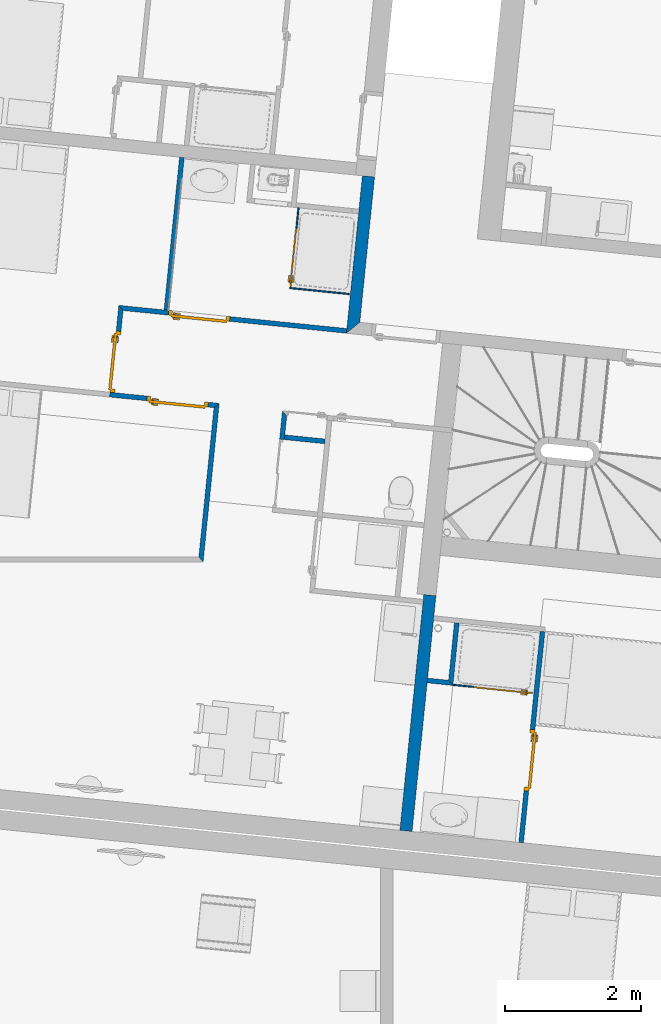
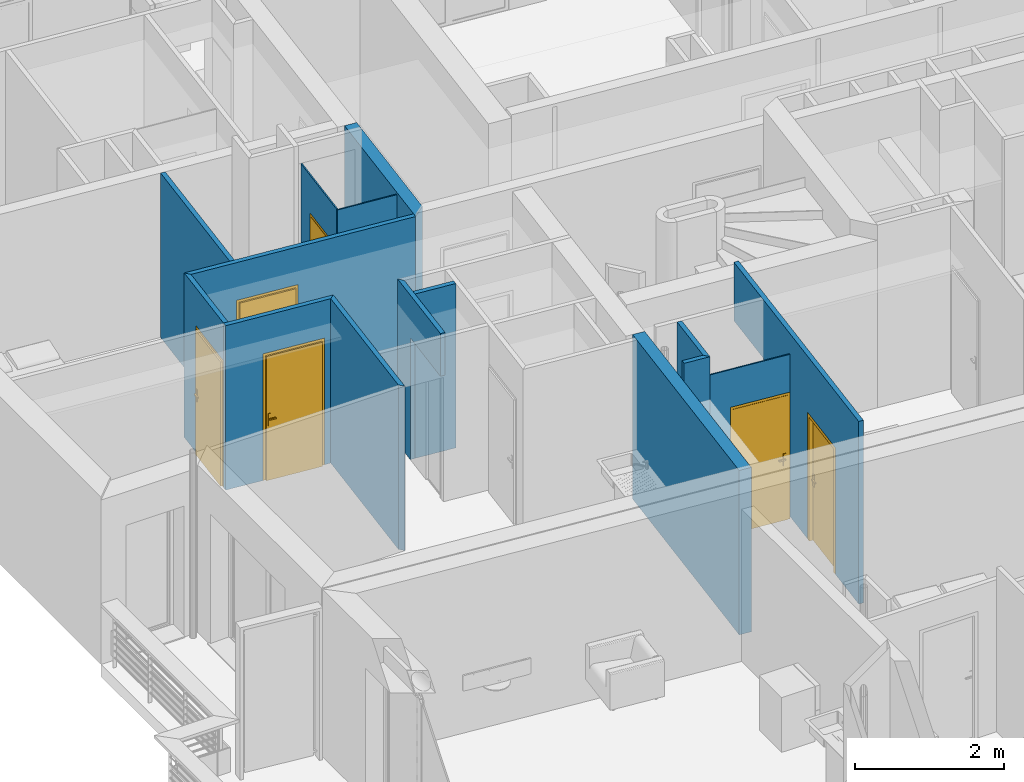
# One storey, part 49 of 164: 15 walls, 6 doors, 8 openings.
"""IFC2X3 building model written with IfcOpenShell, lengths in millimetres."""

from ifc_helpers import new_model, entity, si_unit, converted_unit, derived_unit, money_unit, direction, frame, origin_with_axes, origin_2d_with_axis, place, context, subcontext, project, spatial, polyline, rectangle, outline, extrude, faceted_brep, source, transform, mapped, material, layer, layer_set, layer_usage, type_object, element, fill, save


model = new_model("IFC2X3")

# Units and contexts
model_context = context("Model", 3, precision=0.01, world=origin_with_axes(), true_north=direction((0.0, 1.0)))
body_context = subcontext(model_context, "Body", "Model", "MODEL_VIEW")
ifc_project = project(units=[si_unit("LENGTHUNIT", "METRE", prefix="MILLI"), si_unit("AREAUNIT", "SQUARE_METRE"), si_unit("VOLUMEUNIT", "CUBIC_METRE"), converted_unit("PLANEANGLEUNIT", "DEGREE", entity("IfcPlaneAngleMeasure", 0.0174532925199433), si_unit("PLANEANGLEUNIT", "RADIAN"), dimensions=[0, 0, 0, 0, 0, 0, 0]), money_unit("USD"), converted_unit("TIMEUNIT", "Year", entity("IfcTimeMeasure", 31557600.0), si_unit("TIMEUNIT", "SECOND"), dimensions=[0, 0, 1, 0, 0, 0, 0]), si_unit("MASSUNIT", "GRAM", prefix="KILO"), si_unit("THERMODYNAMICTEMPERATUREUNIT", "DEGREE_CELSIUS"), si_unit("LUMINOUSINTENSITYUNIT", "LUMEN"), si_unit("ENERGYUNIT", "JOULE", prefix="MEGA"), derived_unit("THERMALCONDUCTANCEUNIT", [(si_unit("POWERUNIT", "WATT"), 1), (si_unit("LENGTHUNIT", "METRE"), -1), (si_unit("THERMODYNAMICTEMPERATUREUNIT", "KELVIN"), -1)]), derived_unit("SPECIFICHEATCAPACITYUNIT", [(si_unit("ENERGYUNIT", "JOULE"), 1), (si_unit("MASSUNIT", "GRAM", prefix="KILO"), -1), (si_unit("THERMODYNAMICTEMPERATUREUNIT", "KELVIN"), -1)]), derived_unit("MASSDENSITYUNIT", [(si_unit("MASSUNIT", "GRAM", prefix="KILO"), 1), (si_unit("VOLUMEUNIT", "CUBIC_METRE"), -1)])], contexts=[model_context])

# Site, building, storey
site_placement = place(None, origin_with_axes())
site = spatial("IfcSite", under=ifc_project, at=site_placement, Name="Site", CompositionType="ELEMENT")
building_placement = place(site_placement, origin_with_axes())
building = spatial("IfcBuilding", under=site, at=building_placement, Name="Bâtiment", CompositionType="ELEMENT")
storey_placement = place(building_placement, frame((0.0, 0.0, 5750.0), z_axis=(0.0, 0.0, 1.0), x_axis=(1.0, 0.0, 0.0)))
storey = spatial("IfcBuildingStorey", under=building, at=storey_placement, Name="Etage1", CompositionType="ELEMENT", Elevation=5750.0)

# Walls
ifc_material_1 = material(Name="Parpaing 314940890")
ifc_layer_1 = layer(ifc_material_1, 180.0, ventilated="UNKNOWN")
ifc_layer_set_1 = layer_set([ifc_layer_1], Name="Beton  18 0018356637")
ifc_layer_usage_1 = layer_usage(ifc_layer_set_1, "AXIS2", "NEGATIVE", 0.0)
wall_type_1 = type_object("IfcWallType", Name="Beton  18 0018356637 180", PredefinedType="NOTDEFINED")
wall_1_placement = place(storey_placement, frame((2224947.557102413, -617737.4082418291, 0.0), z_axis=(0.0, 0.0, 1.0), x_axis=(-0.1008361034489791, -0.9949030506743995, 0.0)))
element("IfcWallStandardCase", 1, at=wall_1_placement, inside=storey, type_object=wall_type_1, material=ifc_layer_usage_1, Name="Mur-143", context=body_context, shape_type="SweptSolid", body=[
    extrude(outline(polyline([(-0.04756374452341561, -180.0000000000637), (3497.281373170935, -180.0000000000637), (3497.329701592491, 1.13686837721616e-10), (0.0, 0.0), (-0.04756374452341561, -180.0000000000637)])), origin_with_axes(), (0.0, 0.0, 1.0), 2700.0),
])
ifc_material_2 = material(Name="Hachure solide 268963992")
ifc_layer_2 = layer(ifc_material_2, 70.0, ventilated="UNKNOWN")
ifc_layer_set_2 = layer_set([ifc_layer_2], Name="Cloison 70 0826278243")
ifc_layer_usage_2 = layer_usage(ifc_layer_set_2, "AXIS2", "POSITIVE", -70.0)
wall_type_2 = type_object("IfcWallType", Name="Cloison 70 0826278243 70", PredefinedType="NOTDEFINED")
wall_2_placement = place(storey_placement, frame((2221233.223659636, -611271.3291916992, 0.0), z_axis=(0.0, 0.0, 1.0), x_axis=(-0.1008288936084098, -0.9949037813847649, 0.0)))
element("IfcWallStandardCase", 2, at=wall_2_placement, inside=storey, type_object=wall_type_2, material=ifc_layer_usage_2, Name="Mur-149", context=body_context, shape_type="SweptSolid", body=[
    extrude(outline(polyline([(-0.01930162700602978, -70.00000000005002), (2266.451296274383, -69.99999999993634), (2266.475487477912, 0.0), (0.0, 0.0), (-0.01930162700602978, -70.00000000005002)])), origin_with_axes(), (0.0, 0.0, 1.0), 2700.0),
])

# Wall, opening, door
ifc_layer_usage_3 = layer_usage(ifc_layer_set_2, "AXIS2", "POSITIVE", -70.0)
wall_3_placement = place(storey_placement, frame((2220330.272971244, -613528.0299812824, 0.0), z_axis=(0.0, 0.0, 1.0), x_axis=(-0.1011731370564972, -0.9948688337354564, 0.0)))
wall_3 = element("IfcWallStandardCase", 3, at=wall_3_placement, inside=storey, type_object=wall_type_2, material=ifc_layer_usage_3, Name="Mur-149", context=body_context, shape_type="SweptSolid", body=[
    extrude(outline(polyline([(-69.99997030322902, -69.99999999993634), (1219.99999999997, -69.99999999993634), (1219.99999999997, 0.0), (0.0, 0.0), (-69.99997030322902, -69.99999999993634)])), origin_with_axes(), (0.0, 0.0, 1.0), 2700.0),
])
opening_1_placement = place(wall_3_placement, frame((764.9999999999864, 0.0, 0.0), z_axis=(0.0, 0.0, 1.0), x_axis=(1.0, 0.0, 0.0)))
opening_1 = element("IfcOpeningElement", 4, at=opening_1_placement, cuts=wall_3, Name="Por-280", context=body_context, shape_type="SweptSolid", body=[
    extrude(rectangle(XDim=910.0, YDim=2080.0, at=origin_2d_with_axis()), frame((0.0, 69.99999999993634, 1040.0), z_axis=(0.0, 1.0, 0.0), x_axis=(1.0, 0.0, 0.0)), (0.0, 0.0, -1.0), 140.0),
])
door_style = type_object("IfcDoorStyle", Name="Porte_1v", ConstructionType="NOTDEFINED", OperationType="NOTDEFINED", ParameterTakesPrecedence=False, Sizeable=False)
shared_shape_1 = source(origin_with_axes(), body_context, "Body", "Brep", [
    faceted_brep([(-454.9999999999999, 0.0, 0.0), (-454.9999999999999, 0.0, 2080.0), (454.9999999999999, 0.0, 2080.0), (454.9999999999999, 0.0, 0.0), (414.9999999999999, 0.0, 0.0), (414.9999999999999, 0.0, 2040.0), (-414.9999999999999, 0.0, 2040.0), (-414.9999999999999, 0.0, 0.0), (-454.9999999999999, -69.99999999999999, 0.0), (-454.9999999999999, -69.99999999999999, 2080.0), (454.9999999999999, -69.99999999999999, 2080.0), (454.9999999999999, -69.99999999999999, 0.0), (399.9999999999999, -69.99999999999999, 0.0), (399.9999999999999, -15.0, 0.0), (414.9999999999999, -15.0, 0.0), (414.9999999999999, -15.0, 2040.0), (-414.9999999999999, -14.99999999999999, 2040.0), (-414.9999999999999, -14.99999999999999, 0.0), (-399.9999999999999, -14.99999999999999, 0.0), (-399.9999999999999, -69.99999999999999, 0.0), (-399.9999999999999, -69.99999999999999, 2025.0), (399.9999999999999, -69.99999999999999, 2025.0), (399.9999999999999, -15.0, 2025.0), (-399.9999999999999, -14.99999999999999, 2025.0)], [[[0, 1, 2, 3, 4, 5, 6, 7]], [[8, 9, 1, 0]], [[9, 10, 2, 1]], [[10, 11, 3, 2]], [[3, 11, 12, 13, 14, 4]], [[5, 4, 14, 15]], [[6, 5, 15, 16]], [[7, 6, 16, 17]], [[0, 7, 17, 18, 19, 8]], [[19, 20, 21, 12, 11, 10, 9, 8]], [[22, 13, 12, 21]], [[17, 16, 15, 14, 13, 22, 23, 18]], [[18, 23, 20, 19]], [[23, 22, 21, 20]]]),
    faceted_brep([(350.0, -15.0, 900.0), (350.0, -15.0, 1100.0), (389.9999999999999, -15.0, 1100.0), (389.9999999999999, -15.0, 900.0), (350.0, -25.0, 900.0), (350.0, -25.0, 1100.0), (389.9999999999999, -25.0, 1100.0), (389.9999999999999, -25.0, 900.0)], [[[0, 1, 2, 3]], [[0, 4, 5, 1]], [[1, 5, 6, 2]], [[2, 6, 7, 3]], [[3, 7, 4, 0]], [[7, 6, 5, 4]]]),
    faceted_brep([(279.9999999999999, -25.0, 1000.0), (279.9999999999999, -25.0, 1020.0), (379.9999999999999, -25.0, 1020.0), (379.9999999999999, -25.0, 1000.0), (279.9999999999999, -45.0, 1000.0), (279.9999999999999, -45.0, 1020.0), (379.9999999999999, -45.0, 1020.0), (379.9999999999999, -45.0, 1000.0)], [[[0, 1, 2, 3]], [[0, 4, 5, 1]], [[1, 5, 6, 2]], [[2, 6, 7, 3]], [[3, 7, 4, 0]], [[7, 6, 5, 4]]]),
    faceted_brep([(350.0, 34.99999999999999, 900.0), (350.0, 34.99999999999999, 1100.0), (389.9999999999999, 34.99999999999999, 1100.0), (389.9999999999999, 34.99999999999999, 900.0), (350.0, 24.99999999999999, 900.0), (350.0, 24.99999999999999, 1100.0), (389.9999999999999, 24.99999999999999, 1100.0), (389.9999999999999, 24.99999999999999, 900.0)], [[[0, 1, 2, 3]], [[0, 4, 5, 1]], [[1, 5, 6, 2]], [[2, 6, 7, 3]], [[3, 7, 4, 0]], [[7, 6, 5, 4]]]),
    faceted_brep([(279.9999999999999, 54.99999999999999, 1000.0), (279.9999999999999, 54.99999999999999, 1020.0), (379.9999999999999, 54.99999999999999, 1020.0), (379.9999999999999, 54.99999999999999, 1000.0), (279.9999999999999, 34.99999999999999, 1000.0), (279.9999999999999, 34.99999999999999, 1020.0), (379.9999999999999, 34.99999999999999, 1020.0), (379.9999999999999, 34.99999999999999, 1000.0)], [[[0, 1, 2, 3]], [[0, 4, 5, 1]], [[1, 5, 6, 2]], [[2, 6, 7, 3]], [[3, 7, 4, 0]], [[7, 6, 5, 4]]]),
    faceted_brep([(414.9999999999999, 24.99999999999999, 0.0), (414.9999999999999, -15.0, 0.0), (-414.9999999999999, -14.99999999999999, 0.0), (-414.9999999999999, 25.0, 0.0), (414.9999999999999, 24.99999999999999, 2040.0), (414.9999999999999, -15.0, 2040.0), (-414.9999999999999, -14.99999999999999, 2040.0), (-414.9999999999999, 25.0, 2040.0)], [[[0, 1, 2, 3]], [[4, 5, 1, 0]], [[1, 5, 6, 2]], [[3, 2, 6, 7]], [[0, 3, 7, 4]], [[7, 6, 5, 4]]]),
])
door_1_placement = place(opening_1_placement, frame((414.9999999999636, 1.13686837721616e-10, 0.0), z_axis=(0.0, 0.0, 1.0), x_axis=(-1.0, 0.0, 0.0)))
door_1 = element("IfcDoor", 5, at=door_1_placement, inside=storey, type_object=door_style, Name="Por-280", OverallHeight=2040.0, OverallWidth=830.0, context=body_context, shape_type="MappedRepresentation", body=[
    mapped(shared_shape_1, transform((414.9999999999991, 69.99999999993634, 0.0))),
])
fill(opening_1, door_1)

# Wall
ifc_layer_usage_4 = layer_usage(ifc_layer_set_2, "AXIS2", "POSITIVE", -70.0)
wall_4_placement = place(storey_placement, frame((2225290.315286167, -618141.6409593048, 0.0), z_axis=(0.0, 0.0, 1.0), x_axis=(-0.1005444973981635, -0.9949325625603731, 0.0)))
element("IfcWallStandardCase", 6, at=wall_4_placement, inside=storey, type_object=wall_type_2, material=ifc_layer_usage_4, Name="Mur-149", context=body_context, shape_type="SweptSolid", body=[
    extrude(outline(polyline([(-0.02866273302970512, -70.00000000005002), (854.3769628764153, -69.99999999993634), (924.3814876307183, 0.0), (-0.007720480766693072, 0.0), (-0.02866273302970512, -70.00000000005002)])), origin_with_axes(), (0.0, 0.0, 1.0), 3000.0),
])

# Wall, opening, door
ifc_layer_usage_5 = layer_usage(ifc_layer_set_2, "AXIS2", "POSITIVE", -70.0)
wall_5_placement = place(storey_placement, frame((2223626.274768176, -613863.215308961, 0.0), z_axis=(0.0, 0.0, 1.0), x_axis=(-0.9948688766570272, 0.1011727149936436, 0.0)))
wall_5 = element("IfcWallStandardCase", 7, at=wall_5_placement, inside=storey, type_object=wall_type_2, material=ifc_layer_usage_5, Name="Mur-149", context=body_context, shape_type="SweptSolid", body=[
    extrude(outline(polyline([(-1.13686837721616e-10, -70.0000000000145), (3383.001185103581, -70.00000000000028), (3313.001214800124, 0.0), (0.0, 0.0), (-1.13686837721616e-10, -70.0000000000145)])), origin_with_axes(), (0.0, 0.0, 1.0), 2700.0),
])
opening_2_placement = place(wall_5_placement, frame((2188.000767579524, 0.0, 0.0), z_axis=(0.0, 0.0, 1.0), x_axis=(1.0, 0.0, 0.0)))
opening_2 = element("IfcOpeningElement", 8, at=opening_2_placement, cuts=wall_5, Name="Por-280", context=body_context, shape_type="SweptSolid", body=[
    extrude(rectangle(XDim=910.0, YDim=2080.0, at=origin_2d_with_axis()), frame((0.0, -70.00000000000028, 1040.0), z_axis=(0.0, -1.0, 0.0), x_axis=(-1.0, 0.0, 0.0)), (0.0, 0.0, -1.0), 140.0),
])
door_2_placement = place(opening_2_placement, frame((-414.9999999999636, 0.0, 0.0), z_axis=(0.0, 0.0, 1.0), x_axis=(1.0, 0.0, 0.0)))
door_2 = element("IfcDoor", 9, at=door_2_placement, inside=storey, type_object=door_style, Name="Por-280", OverallHeight=2040.0, OverallWidth=830.0, context=body_context, shape_type="MappedRepresentation", body=[
    mapped(shared_shape_1, transform((415.0000000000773, 0.0, 0.0))),
])
fill(opening_2, door_2)

ifc_layer_usage_6 = layer_usage(ifc_layer_set_2, "AXIS2", "NEGATIVE", 70.0)
wall_6_placement = place(storey_placement, frame((2221749.216305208, -614898.6216634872, 0.0), z_axis=(0.0, 0.0, 1.0), x_axis=(-0.99486883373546, 0.1011731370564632, 0.0)))
wall_6 = element("IfcWallStandardCase", 10, at=wall_6_placement, inside=storey, type_object=wall_type_2, material=ifc_layer_usage_6, Name="Mur-149", context=body_context, shape_type="SweptSolid", body=[
    extrude(outline(polyline([(-2.273736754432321e-10, 0.0), (1620.329559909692, 0.0), (1620.329559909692, 69.99999999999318), (69.99999999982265, 70.00000000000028), (-2.273736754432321e-10, 0.0)])), origin_with_axes(), (0.0, 0.0, 1.0), 2700.0),
])
opening_3_placement = place(wall_6_placement, frame((615.2185061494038, 0.0, 0.0), z_axis=(0.0, 0.0, 1.0), x_axis=(1.0, 0.0, 0.0)))
opening_3 = element("IfcOpeningElement", 11, at=opening_3_placement, cuts=wall_6, Name="Por-280", context=body_context, shape_type="SweptSolid", body=[
    extrude(rectangle(XDim=910.0, YDim=2080.0, at=origin_2d_with_axis()), frame((0.0, -70.00000000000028, 1040.0), z_axis=(0.0, -1.0, 0.0), x_axis=(-1.0, 0.0, 0.0)), (0.0, 0.0, -1.0), 140.0),
])
door_3_placement = place(opening_3_placement, frame((-415.0000000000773, 0.0, 0.0), z_axis=(0.0, 0.0, 1.0), x_axis=(1.0, 0.0, 0.0)))
door_3 = element("IfcDoor", 12, at=door_3_placement, inside=storey, type_object=door_style, Name="Por-280", OverallHeight=2040.0, OverallWidth=830.0, context=body_context, shape_type="MappedRepresentation", body=[
    mapped(shared_shape_1, transform((415.0000000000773, 70.00000000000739, 0.0))),
])
fill(opening_3, door_3)

# Wall, opening
ifc_layer_usage_7 = layer_usage(ifc_layer_set_2, "AXIS2", "POSITIVE", -70.0)
wall_7_placement = place(storey_placement, frame((2222752.519479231, -615015.4801485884, 0.0), z_axis=(0.0, 0.0, 1.0), x_axis=(-0.1011032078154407, -0.9948759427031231, 0.0)))
wall_7 = element("IfcWallStandardCase", 13, at=wall_7_placement, inside=storey, type_object=wall_type_2, material=ifc_layer_usage_7, Name="Mur-149", context=body_context, shape_type="SweptSolid", body=[
    extrude(outline(polyline([(-1.003314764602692e-06, -69.99999999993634), (1408.251999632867, -69.99999999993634), (1408.251999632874, 1.13686837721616e-10), (69.99999999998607, 1.13686837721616e-10), (-1.003314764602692e-06, -69.99999999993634)])), origin_with_axes(), (0.0, 0.0, 1.0), 2700.0),
])
opening_4_placement = place(wall_7_placement, frame((926.5441935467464, -1.13686837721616e-10, 0.0), z_axis=(0.0, 0.0, 1.0), x_axis=(1.0, 0.0, 0.0)))
element("IfcOpeningElement", 14, at=opening_4_placement, cuts=wall_7, Name="Por-321", context=body_context, shape_type="SweptSolid", body=[
    extrude(rectangle(XDim=1013.088379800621, YDim=2000.0, at=origin_2d_with_axis()), frame((0.0, -69.99999999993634, 1000.0), z_axis=(0.0, 1.0, 0.0), x_axis=(1.0, 0.0, 0.0)), (0.0, 0.0, -1.0), 70.0),
    extrude(rectangle(XDim=1013.088379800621, YDim=2000.0, at=origin_2d_with_axis()), frame((0.0, -69.99999999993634, 1000.0), z_axis=(0.0, -1.0, 0.0), x_axis=(1.0, 0.0, 0.0)), (0.0, 0.0, -1.0), 70.0),
])

# Walls
ifc_layer_usage_8 = layer_usage(ifc_layer_set_2, "AXIS2", "POSITIVE", -70.0)
wall_8_placement = place(storey_placement, frame((2221749.216305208, -614898.6216634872, 0.0), z_axis=(0.0, 0.0, 1.0), x_axis=(-0.1011731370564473, -0.9948688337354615, 0.0)))
element("IfcWallStandardCase", 15, at=wall_8_placement, inside=storey, type_object=wall_type_2, material=ifc_layer_usage_8, Name="Mur-149", context=body_context, shape_type="SweptSolid", body=[
    extrude(outline(polyline([(70.0000000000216, -69.99999999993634), (2287.704858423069, -69.99999999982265), (2350.947246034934, 0.0), (0.0, 0.0), (70.0000000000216, -69.99999999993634)])), origin_with_axes(), (0.0, 0.0, 1.0), 2700.0),
])
ifc_layer_usage_9 = layer_usage(ifc_layer_set_2, "AXIS2", "POSITIVE", -70.0)
wall_9_placement = place(storey_placement, frame((2225197.373814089, -619061.3382015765, 0.0), z_axis=(0.0, 0.0, 1.0), x_axis=(-0.9949260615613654, 0.100608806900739, 0.0)))
element("IfcWallStandardCase", 16, at=wall_9_placement, inside=storey, type_object=wall_type_2, material=ifc_layer_usage_9, Name="Mur-149", context=body_context, shape_type="SweptSolid", body=[
    extrude(outline(polyline([(70.00452475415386, -70.00000000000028), (382.1642703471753, -69.99999999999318), (382.1642703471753, 0.0), (0.0, 0.0), (70.00452475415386, -70.00000000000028)])), origin_with_axes(), (0.0, 0.0, 1.0), 3000.0),
])

# Wall, openings, door
ifc_layer_usage_10 = layer_usage(ifc_layer_set_2, "AXIS2", "NEGATIVE", 0.0)
wall_10_placement = place(storey_placement, frame((2226681.357235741, -617029.0720211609, 0.0), z_axis=(0.0, 0.0, 1.0), x_axis=(-0.1010359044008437, -0.9948827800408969, 0.0)))
wall_10 = element("IfcWallStandardCase", 17, at=wall_10_placement, inside=storey, type_object=wall_type_2, material=ifc_layer_usage_10, Name="Mur-151", context=body_context, shape_type="SweptSolid", body=[
    extrude(outline(polyline([(279.9952795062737, -70.00000000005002), (4377.324293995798, -70.00000000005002), (4377.329030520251, 0.0), (280.0000006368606, -1.13686837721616e-10), (279.9952795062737, -70.00000000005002)])), origin_with_axes(), (0.0, 0.0, 1.0), 3000.0),
])
opening_5_placement = place(wall_10_placement, frame((763.5829119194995, 3.410605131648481e-10, 0.0), z_axis=(0.0, 0.0, 1.0), x_axis=(1.0, 0.0, 0.0)))
element("IfcOpeningElement", 18, at=opening_5_placement, cuts=wall_10, Name="Por-278", context=body_context, shape_type="SweptSolid", body=[
    extrude(rectangle(XDim=967.1658225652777, YDim=2040.0, at=origin_2d_with_axis()), frame((0.0, 0.0, 1020.0), z_axis=(0.0, -1.0, 0.0), x_axis=(1.0, 0.0, 0.0)), (0.0, 0.0, -1.0), 70.0),
    extrude(rectangle(XDim=967.1658225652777, YDim=2040.0, at=origin_2d_with_axis()), frame((0.0, 0.0, 1020.0), z_axis=(0.0, 1.0, 0.0), x_axis=(1.0, 0.0, 0.0)), (0.0, 0.0, -1.0), 70.0),
])
opening_6_placement = place(wall_10_placement, frame((3154.956492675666, 3.410605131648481e-10, 0.0), z_axis=(0.0, 0.0, 1.0), x_axis=(1.0, 0.0, 0.0)))
opening_6 = element("IfcOpeningElement", 19, at=opening_6_placement, cuts=wall_10, Name="Por-278", context=body_context, shape_type="SweptSolid", body=[
    extrude(rectangle(XDim=910.0, YDim=2080.0, at=origin_2d_with_axis()), frame((0.0, -70.00000000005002, 1040.0), z_axis=(0.0, 1.0, 0.0), x_axis=(1.0, 0.0, 0.0)), (0.0, 0.0, 1.0), 140.0),
])
shared_shape_2 = source(origin_with_axes(), body_context, "Body", "Brep", [
    faceted_brep([(455.0, 0.0, 0.0), (415.0000000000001, 0.0, 0.0), (415.0000000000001, 0.0, 2040.0), (-415.0000000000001, 0.0, 2040.0), (-415.0000000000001, 0.0, 0.0), (-455.0, 0.0, 0.0), (-455.0, 0.0, 2080.0), (455.0, 0.0, 2080.0), (455.0, -70.0, 0.0), (400.0, -70.0, 0.0), (400.0, -15.0, 0.0), (415.0000000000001, -15.0, 0.0), (415.0000000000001, -15.0, 2040.0), (-415.0000000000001, -15.0, 2040.0), (-415.0000000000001, -15.0, 0.0), (-400.0, -15.0, 0.0), (-400.0, -70.0, 0.0), (-455.0, -70.0, 0.0), (-455.0, -70.0, 2080.0), (455.0, -70.0, 2080.0), (-400.0, -70.0, 2025.0), (400.0, -70.0, 2025.0), (400.0, -15.0, 2025.0), (-400.0, -15.0, 2025.0)], [[[0, 1, 2, 3, 4, 5, 6, 7]], [[0, 8, 9, 10, 11, 1]], [[1, 11, 12, 2]], [[2, 12, 13, 3]], [[3, 13, 14, 4]], [[5, 4, 14, 15, 16, 17]], [[18, 6, 5, 17]], [[19, 7, 6, 18]], [[8, 0, 7, 19]], [[9, 8, 19, 18, 17, 16, 20, 21]], [[10, 9, 21, 22]], [[11, 10, 22, 23, 15, 14, 13, 12]], [[23, 20, 16, 15]], [[22, 21, 20, 23]]]),
    faceted_brep([(-350.0000000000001, -15.0, 900.0), (-390.0, -15.0, 900.0), (-390.0, -15.0, 1100.0), (-350.0000000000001, -15.0, 1100.0), (-350.0000000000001, -25.0, 900.0), (-390.0, -25.0, 900.0), (-390.0, -25.0, 1100.0), (-350.0000000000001, -25.0, 1100.0)], [[[0, 1, 2, 3]], [[1, 0, 4, 5]], [[2, 1, 5, 6]], [[3, 2, 6, 7]], [[0, 3, 7, 4]], [[5, 4, 7, 6]]]),
    faceted_brep([(-280.0, -25.0, 1000.0), (-380.0, -25.0, 1000.0), (-380.0, -25.0, 1020.0), (-280.0, -25.0, 1020.0), (-280.0, -45.0, 1000.0), (-380.0, -45.0, 1000.0), (-380.0, -45.0, 1020.0), (-280.0, -45.0, 1020.0)], [[[0, 1, 2, 3]], [[1, 0, 4, 5]], [[2, 1, 5, 6]], [[3, 2, 6, 7]], [[0, 3, 7, 4]], [[5, 4, 7, 6]]]),
    faceted_brep([(-350.0000000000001, 35.0, 900.0), (-390.0, 35.0, 900.0), (-390.0, 35.0, 1100.0), (-350.0000000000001, 35.0, 1100.0), (-350.0000000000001, 25.0, 900.0), (-390.0, 25.0, 900.0), (-390.0, 25.0, 1100.0), (-350.0000000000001, 25.0, 1100.0)], [[[0, 1, 2, 3]], [[1, 0, 4, 5]], [[2, 1, 5, 6]], [[3, 2, 6, 7]], [[0, 3, 7, 4]], [[5, 4, 7, 6]]]),
    faceted_brep([(-280.0, 55.00000000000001, 1000.0), (-380.0, 55.00000000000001, 1000.0), (-380.0, 55.00000000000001, 1020.0), (-280.0, 55.00000000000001, 1020.0), (-280.0, 35.0, 1000.0), (-380.0, 35.0, 1000.0), (-380.0, 35.0, 1020.0), (-280.0, 35.0, 1020.0)], [[[0, 1, 2, 3]], [[1, 0, 4, 5]], [[2, 1, 5, 6]], [[3, 2, 6, 7]], [[0, 3, 7, 4]], [[5, 4, 7, 6]]]),
    faceted_brep([(-415.0000000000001, 25.0, 0.0), (415.0000000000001, 25.0, 0.0), (415.0000000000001, -15.0, 0.0), (-415.0000000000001, -15.0, 0.0), (-415.0000000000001, 25.0, 2040.0), (415.0000000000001, 25.0, 2040.0), (415.0000000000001, -15.0, 2040.0), (-415.0000000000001, -15.0, 2040.0)], [[[0, 1, 2, 3]], [[0, 4, 5, 1]], [[1, 5, 6, 2]], [[3, 2, 6, 7]], [[4, 0, 3, 7]], [[5, 4, 7, 6]]]),
])
door_4_placement = place(opening_6_placement, frame((-414.9999999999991, 0.0, 0.0), z_axis=(0.0, 0.0, 1.0), x_axis=(1.0, 0.0, 0.0)))
door_4 = element("IfcDoor", 20, at=door_4_placement, inside=storey, type_object=door_style, Name="Por-278", OverallHeight=2040.0, OverallWidth=830.0, context=body_context, shape_type="MappedRepresentation", body=[
    mapped(shared_shape_2, transform((414.9999999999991, 0.0, 0.0))),
])
fill(opening_6, door_4)

# Walls
ifc_layer_usage_11 = layer_usage(ifc_layer_set_2, "AXIS2", "POSITIVE", -70.0)
wall_11_placement = place(storey_placement, frame((2223376.622996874, -615501.0672017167, 0.0), z_axis=(0.0, 0.0, 1.0), x_axis=(-0.9948759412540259, 0.1011032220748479, 0.0)))
element("IfcWallStandardCase", 21, at=wall_11_placement, inside=storey, type_object=wall_type_2, material=ifc_layer_usage_11, Name="Mur-149", context=body_context, shape_type="SweptSolid", body=[
    extrude(outline(polyline([(70.00000091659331, -70.00000000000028), (669.9999852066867, -69.99999999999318), (669.9999842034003, 0.0), (70.0000030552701, 0.0), (70.00000091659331, -70.00000000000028)])), origin_with_axes(), (0.0, 0.0, 1.0), 2700.0),
])
ifc_material_3 = material(Name="Parpaing 312445824")
ifc_layer_3 = layer(ifc_material_3, 180.0, ventilated="UNKNOWN")
ifc_layer_set_3 = layer_set([ifc_layer_3], Name="Beton  18 0836643197")
ifc_layer_usage_12 = layer_usage(ifc_layer_set_3, "AXIS2", "NEGATIVE", 0.0)
wall_type_3 = type_object("IfcWallType", Name="Beton  18 0836643197 180", PredefinedType="NOTDEFINED")
wall_12_placement = place(storey_placement, frame((2224041.596288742, -611556.7271089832, 0.0), z_axis=(0.0, 0.0, 1.0), x_axis=(-0.1011032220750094, -0.9948759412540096, 0.0)))
element("IfcWallStandardCase", 22, at=wall_12_placement, inside=storey, type_object=wall_type_3, material=ifc_layer_usage_12, Name="Mur-142", context=body_context, shape_type="SweptSolid", body=[
    extrude(outline(polyline([(0.0, -180.0000000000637), (2336.659962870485, -179.99999999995), (2156.659962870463, 1.13686837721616e-10), (0.0, 0.0), (0.0, -180.0000000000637)])), origin_with_axes(), (0.0, 0.0, 1.0), 2700.0),
])

# Wall, opening, door
ifc_material_4 = material(Name="Empty Fill 292498448")
ifc_layer_4 = layer(ifc_material_4, 20.0, ventilated="UNKNOWN")
ifc_layer_set_4 = layer_set([ifc_layer_4], Name="mur 2cm")
ifc_layer_usage_13 = layer_usage(ifc_layer_set_4, "AXIS2", "POSITIVE", -20.0)
wall_type_4 = type_object("IfcWallType", Name="mur 2cm 20", PredefinedType="NOTDEFINED")
wall_13_placement = place(storey_placement, frame((2226371.512134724, -619179.9124765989, 0.0), z_axis=(0.0, 0.0, 1.0), x_axis=(-0.9949393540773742, 0.1004772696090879, 0.0)))
wall_13 = element("IfcWallStandardCase", 23, at=wall_13_placement, inside=storey, type_object=wall_type_4, material=ifc_layer_usage_13, Name="Mur-148", context=body_context, shape_type="SweptSolid", body=[
    extrude(outline(polyline([(0.0, -19.99999999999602), (1180.109090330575, -19.99999999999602), (1180.11044172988, 0.0), (0.0, 0.0), (0.0, -19.99999999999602)])), origin_with_axes(), (0.0, 0.0, 1.0), 2700.0),
])
opening_7_placement = place(wall_13_placement, frame((439.9999999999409, 0.0, 0.0), z_axis=(0.0, 0.0, 1.0), x_axis=(1.0, 0.0, 0.0)))
opening_7 = element("IfcOpeningElement", 24, at=opening_7_placement, cuts=wall_13, Name="Por-288", context=body_context, shape_type="SweptSolid", body=[
    extrude(rectangle(XDim=880.0000119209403, YDim=2080.0, at=origin_2d_with_axis()), frame((5.960373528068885e-06, -20.00000000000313, 1040.0), z_axis=(0.0, 1.0, 0.0), x_axis=(1.0, 0.0, 0.0)), (0.0, 0.0, 1.0), 40.0),
])
shared_shape_3 = source(origin_with_axes(), body_context, "Body", "Brep", [
    faceted_brep([(440.0, 0.0, 0.0), (400.0, 0.0, 0.0), (400.0, 0.0, 2040.0), (-400.0, 0.0, 2040.0), (-400.0, 0.0, 0.0), (-440.0, 0.0, 0.0), (-440.0, 0.0, 2080.0), (440.0, 0.0, 2080.0), (440.0, -20.0, 0.0), (385.0, -20.0, 0.0), (385.0, -15.0, 0.0), (400.0, -15.0, 0.0), (400.0, -15.0, 2040.0), (-400.0, -15.0, 2040.0), (-400.0, -15.0, 0.0), (-385.0, -15.0, 0.0), (-385.0, -20.0, 0.0), (-440.0, -20.0, 0.0), (-440.0, -20.0, 2080.0), (440.0, -20.0, 2080.0), (-385.0, -20.0, 2025.0), (385.0, -20.0, 2025.0), (385.0, -15.0, 2025.0), (-385.0, -15.0, 2025.0)], [[[0, 1, 2, 3, 4, 5, 6, 7]], [[0, 8, 9, 10, 11, 1]], [[1, 11, 12, 2]], [[2, 12, 13, 3]], [[3, 13, 14, 4]], [[5, 4, 14, 15, 16, 17]], [[18, 6, 5, 17]], [[19, 7, 6, 18]], [[8, 0, 7, 19]], [[9, 8, 19, 18, 17, 16, 20, 21]], [[10, 9, 21, 22]], [[11, 10, 22, 23, 15, 14, 13, 12]], [[23, 20, 16, 15]], [[22, 21, 20, 23]]]),
    faceted_brep([(-335.0, -15.0, 900.0), (-375.0, -15.0, 900.0), (-375.0, -15.0, 1100.0), (-335.0, -15.0, 1100.0), (-335.0, -25.0, 900.0), (-375.0, -25.0, 900.0), (-375.0, -25.0, 1100.0), (-335.0, -25.0, 1100.0)], [[[0, 1, 2, 3]], [[1, 0, 4, 5]], [[2, 1, 5, 6]], [[3, 2, 6, 7]], [[0, 3, 7, 4]], [[5, 4, 7, 6]]]),
    faceted_brep([(-265.0, -25.0, 1000.0), (-365.0, -25.0, 1000.0), (-365.0, -25.0, 1020.0), (-265.0, -25.0, 1020.0), (-265.0, -45.0, 1000.0), (-365.0, -45.0, 1000.0), (-365.0, -45.0, 1020.0), (-265.0, -45.0, 1020.0)], [[[0, 1, 2, 3]], [[1, 0, 4, 5]], [[2, 1, 5, 6]], [[3, 2, 6, 7]], [[0, 3, 7, 4]], [[5, 4, 7, 6]]]),
    faceted_brep([(-335.0, 15.0, 900.0), (-375.0, 15.0, 900.0), (-375.0, 15.0, 1100.0), (-335.0, 15.0, 1100.0), (-335.0, 5.000000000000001, 900.0), (-375.0, 5.000000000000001, 900.0), (-375.0, 5.000000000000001, 1100.0), (-335.0, 5.000000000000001, 1100.0)], [[[0, 1, 2, 3]], [[1, 0, 4, 5]], [[2, 1, 5, 6]], [[3, 2, 6, 7]], [[0, 3, 7, 4]], [[5, 4, 7, 6]]]),
    faceted_brep([(-265.0, 35.0, 1000.0), (-365.0, 35.0, 1000.0), (-365.0, 35.0, 1020.0), (-265.0, 35.0, 1020.0), (-265.0, 15.0, 1000.0), (-365.0, 15.0, 1000.0), (-365.0, 15.0, 1020.0), (-265.0, 15.0, 1020.0)], [[[0, 1, 2, 3]], [[1, 0, 4, 5]], [[2, 1, 5, 6]], [[3, 2, 6, 7]], [[0, 3, 7, 4]], [[5, 4, 7, 6]]]),
    faceted_brep([(-400.0, 5.000000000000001, 0.0), (400.0, 5.000000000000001, 0.0), (400.0, -15.0, 0.0), (-400.0, -15.0, 0.0), (-400.0, 5.000000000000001, 2040.0), (400.0, 5.000000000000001, 2040.0), (400.0, -15.0, 2040.0), (-400.0, -15.0, 2040.0)], [[[0, 1, 2, 3]], [[0, 4, 5, 1]], [[1, 5, 6, 2]], [[3, 2, 6, 7]], [[4, 0, 3, 7]], [[5, 4, 7, 6]]]),
])
door_5_placement = place(opening_7_placement, frame((-399.9999999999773, 0.0, 0.0), z_axis=(0.0, 0.0, 1.0), x_axis=(1.0, 0.0, 0.0)))
door_5 = element("IfcDoor", 25, at=door_5_placement, inside=storey, type_object=door_style, Name="Por-288", OverallHeight=2040.0, OverallWidth=800.0, context=body_context, shape_type="MappedRepresentation", body=[
    mapped(shared_shape_3, transform((399.9999999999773, 0.0, 0.0))),
])
fill(opening_7, door_5)

# Wall
ifc_layer_usage_14 = layer_usage(ifc_layer_set_4, "AXIS2", "POSITIVE", -20.0)
wall_14_placement = place(storey_placement, frame((2223664.550605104, -613294.1907811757, 0.0), z_axis=(0.0, 0.0, 1.0), x_axis=(-0.9948691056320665, 0.1011704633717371, 0.0)))
element("IfcWallStandardCase", 26, at=wall_14_placement, inside=storey, type_object=wall_type_4, material=ifc_layer_usage_14, Name="Mur-148", context=body_context, shape_type="SweptSolid", body=[
    extrude(outline(polyline([(0.0, -19.99999999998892), (880.630601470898, -19.99999999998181), (880.630601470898, 0.0), (0.0, 0.0), (0.0, -19.99999999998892)])), origin_with_axes(), (0.0, 0.0, 1.0), 2700.0),
])

# Wall, opening, door
ifc_layer_usage_15 = layer_usage(ifc_layer_set_4, "AXIS2", "POSITIVE", -20.0)
wall_15_placement = place(storey_placement, frame((2222790.450662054, -613185.3094681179, 0.0), z_axis=(0.0, 0.0, 1.0), x_axis=(0.101170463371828, 0.9948691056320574, 0.0)))
wall_15 = element("IfcWallStandardCase", 27, at=wall_15_placement, inside=storey, type_object=wall_type_4, material=ifc_layer_usage_15, Name="Mur-148", context=body_context, shape_type="SweptSolid", body=[
    extrude(outline(polyline([(0.0, -19.99999999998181), (1180.110441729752, -19.99999999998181), (1180.110441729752, 0.0), (0.0, 0.0), (0.0, -19.99999999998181)])), origin_with_axes(), (0.0, 0.0, 1.0), 2700.0),
])
opening_8_placement = place(wall_15_placement, frame((440.0000000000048, 0.0, 0.0), z_axis=(0.0, 0.0, 1.0), x_axis=(1.0, 0.0, 0.0)))
opening_8 = element("IfcOpeningElement", 28, at=opening_8_placement, cuts=wall_15, Name="Por-288", context=body_context, shape_type="SweptSolid", body=[
    extrude(rectangle(XDim=880.0000119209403, YDim=2080.0, at=origin_2d_with_axis()), frame((5.960465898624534e-06, -19.99999999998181, 1040.0), z_axis=(0.0, 1.0, 0.0), x_axis=(1.0, 0.0, 0.0)), (0.0, 0.0, 1.0), 40.0),
])
door_6_placement = place(opening_8_placement, frame((-400.0000000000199, 0.0, 0.0), z_axis=(0.0, 0.0, 1.0), x_axis=(1.0, 0.0, 0.0)))
door_6 = element("IfcDoor", 29, at=door_6_placement, inside=storey, type_object=door_style, Name="Por-288", OverallHeight=2040.0, OverallWidth=800.0, context=body_context, shape_type="MappedRepresentation", body=[
    mapped(shared_shape_3, transform((399.9999999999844, 0.0, 0.0))),
])
fill(opening_8, door_6)

save(model, "model.ifc")
